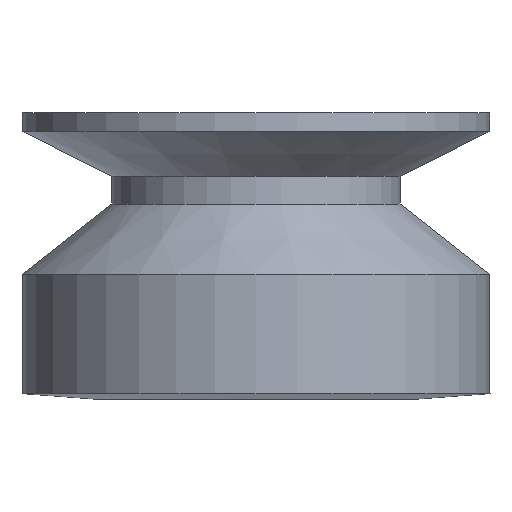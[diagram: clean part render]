
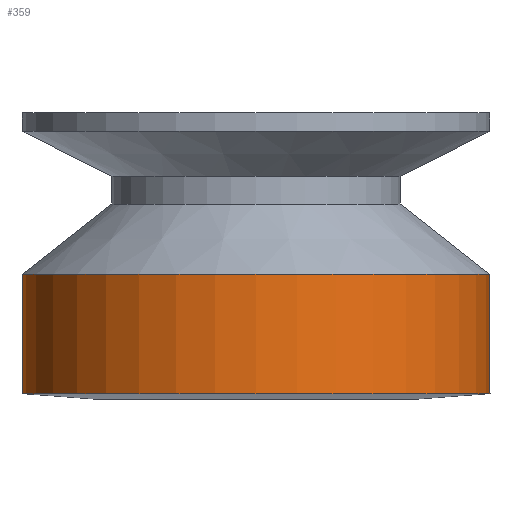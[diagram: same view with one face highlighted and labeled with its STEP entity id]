
A CAD part, front view. The second image highlights one B-rep face of the part: STEP entity #359.
In plain terms, the highlighted cylindrical face has radius 12.75 mm (diameter 25.5 mm), a partial arc.
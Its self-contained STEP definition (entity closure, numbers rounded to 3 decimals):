
#86 = DIRECTION ( 'NONE',  ( 0., 1., 0. ) ) ;
#121 = AXIS2_PLACEMENT_3D ( 'NONE', #1450, #684, #1183 ) ;
#191 = CARTESIAN_POINT ( 'NONE',  ( 181.851, 240.473, -35.385 ) ) ;
#202 = VERTEX_POINT ( 'NONE', #428 ) ;
#240 = ORIENTED_EDGE ( 'NONE', *, *, #922, .T. ) ;
#241 = DIRECTION ( 'NONE',  ( 0., 0., -1. ) ) ;
#321 = DIRECTION ( 'NONE',  ( 0., 0., -1. ) ) ;
#349 = CYLINDRICAL_SURFACE ( 'NONE', #387, 12.75 ) ;
#359 = ADVANCED_FACE ( 'NONE', ( #1437 ), #349, .T. ) ;
#363 = CARTESIAN_POINT ( 'NONE',  ( 194.601, 240.473, -28.885 ) ) ;
#387 = AXIS2_PLACEMENT_3D ( 'NONE', #1323, #321, #86 ) ;
#428 = CARTESIAN_POINT ( 'NONE',  ( 181.851, 240.473, -35.385 ) ) ;
#447 = LINE ( 'NONE', #191, #1425 ) ;
#591 = VERTEX_POINT ( 'NONE', #673 ) ;
#663 = CARTESIAN_POINT ( 'NONE',  ( 207.351, 240.473, -28.885 ) ) ;
#673 = CARTESIAN_POINT ( 'NONE',  ( 181.851, 240.473, -28.885 ) ) ;
#684 = DIRECTION ( 'NONE',  ( 0., 0., -1. ) ) ;
#695 = DIRECTION ( 'NONE',  ( 0., 0., 1. ) ) ;
#758 = LINE ( 'NONE', #663, #1146 ) ;
#819 = EDGE_CURVE ( 'NONE', #1305, #202, #829, .T. ) ;
#829 = CIRCLE ( 'NONE', #121, 12.75 ) ;
#834 = ORIENTED_EDGE ( 'NONE', *, *, #1516, .F. ) ;
#852 = ORIENTED_EDGE ( 'NONE', *, *, #819, .F. ) ;
#886 = VERTEX_POINT ( 'NONE', #1357 ) ;
#922 = EDGE_CURVE ( 'NONE', #886, #591, #1421, .T. ) ;
#966 = DIRECTION ( 'NONE',  ( 0., 1., 0. ) ) ;
#1146 = VECTOR ( 'NONE', #1383, 1000. ) ;
#1183 = DIRECTION ( 'NONE',  ( 0., 1., 0. ) ) ;
#1205 = CARTESIAN_POINT ( 'NONE',  ( 207.351, 240.473, -35.385 ) ) ;
#1292 = EDGE_CURVE ( 'NONE', #202, #591, #447, .T. ) ;
#1305 = VERTEX_POINT ( 'NONE', #1205 ) ;
#1323 = CARTESIAN_POINT ( 'NONE',  ( 194.601, 240.473, -35.685 ) ) ;
#1342 = AXIS2_PLACEMENT_3D ( 'NONE', #363, #241, #966 ) ;
#1357 = CARTESIAN_POINT ( 'NONE',  ( 207.351, 240.473, -28.885 ) ) ;
#1383 = DIRECTION ( 'NONE',  ( 0., 0., -1. ) ) ;
#1392 = EDGE_LOOP ( 'NONE', ( #852, #834, #240, #1598 ) ) ;
#1421 = CIRCLE ( 'NONE', #1342, 12.75 ) ;
#1425 = VECTOR ( 'NONE', #695, 1000. ) ;
#1437 = FACE_OUTER_BOUND ( 'NONE', #1392, .T. ) ;
#1450 = CARTESIAN_POINT ( 'NONE',  ( 194.601, 240.473, -35.385 ) ) ;
#1516 = EDGE_CURVE ( 'NONE', #886, #1305, #758, .T. ) ;
#1598 = ORIENTED_EDGE ( 'NONE', *, *, #1292, .F. ) ;
